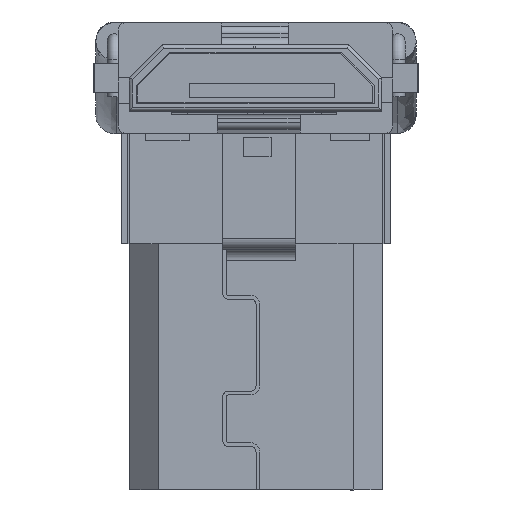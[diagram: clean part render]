
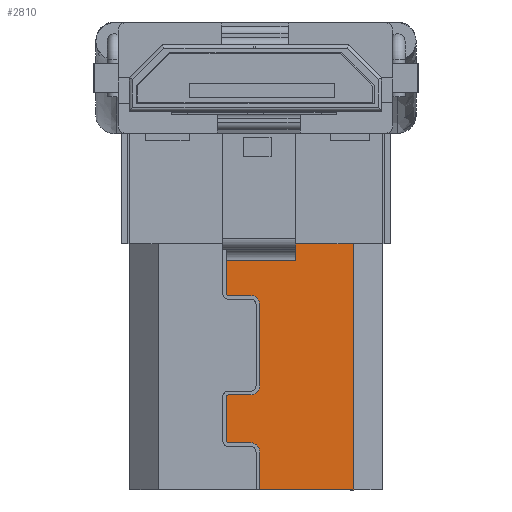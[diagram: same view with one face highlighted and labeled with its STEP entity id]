
A CAD part, front view. The second image highlights one B-rep face of the part: STEP entity #2810.
In plain terms, the highlighted planar face has unit normal (0, -1, 0) as drawn and (0, 0, 1) by its records, which use the part's own axes.
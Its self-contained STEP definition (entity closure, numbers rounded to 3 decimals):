
#2405 = VERTEX_POINT('',#2406);
#2406 = CARTESIAN_POINT('',(-2.65,0.,0.9));
#2430 = VERTEX_POINT('',#2431);
#2431 = CARTESIAN_POINT('',(-1.079,0.,0.9));
#2437 = EDGE_CURVE('',#2405,#2430,#2438,.T.);
#2438 = LINE('',#2439,#2440);
#2439 = CARTESIAN_POINT('',(-3.425,0.,0.9));
#2440 = VECTOR('',#2441,1.);
#2441 = DIRECTION('',(1.,0.,0.));
#2810 = ADVANCED_FACE('',(#2811),#2954,.F.);
#2811 = FACE_BOUND('',#2812,.T.);
#2812 = EDGE_LOOP('',(#2813,#2821,#2829,#2837,#2846,#2854,#2863,#2871,
    #2880,#2888,#2897,#2905,#2914,#2922,#2931,#2939,#2947,#2953));
#2813 = ORIENTED_EDGE('',*,*,#2814,.F.);
#2814 = EDGE_CURVE('',#2815,#2430,#2817,.T.);
#2815 = VERTEX_POINT('',#2816);
#2816 = CARTESIAN_POINT('',(-1.082,0.45,0.9));
#2817 = LINE('',#2818,#2819);
#2818 = CARTESIAN_POINT('',(-1.08,0.15,0.9));
#2819 = VECTOR('',#2820,1.);
#2820 = DIRECTION('',(0.006,-1.,0.));
#2821 = ORIENTED_EDGE('',*,*,#2822,.T.);
#2822 = EDGE_CURVE('',#2815,#2823,#2825,.T.);
#2823 = VERTEX_POINT('',#2824);
#2824 = CARTESIAN_POINT('',(0.8,0.45,0.9));
#2825 = LINE('',#2826,#2827);
#2826 = CARTESIAN_POINT('',(0.8,0.45,0.9));
#2827 = VECTOR('',#2828,1.);
#2828 = DIRECTION('',(1.,0.,0.));
#2829 = ORIENTED_EDGE('',*,*,#2830,.F.);
#2830 = EDGE_CURVE('',#2831,#2823,#2833,.T.);
#2831 = VERTEX_POINT('',#2832);
#2832 = CARTESIAN_POINT('',(0.8,1.35,0.9));
#2833 = LINE('',#2834,#2835);
#2834 = CARTESIAN_POINT('',(0.8,1.35,0.9));
#2835 = VECTOR('',#2836,1.);
#2836 = DIRECTION('',(0.,-1.,0.));
#2837 = ORIENTED_EDGE('',*,*,#2838,.F.);
#2838 = EDGE_CURVE('',#2839,#2831,#2841,.T.);
#2839 = VERTEX_POINT('',#2840);
#2840 = CARTESIAN_POINT('',(0.75,1.4,0.9));
#2841 = CIRCLE('',#2842,0.05);
#2842 = AXIS2_PLACEMENT_3D('',#2843,#2844,#2845);
#2843 = CARTESIAN_POINT('',(0.75,1.35,0.9));
#2844 = DIRECTION('',(0.,0.,-1.));
#2845 = DIRECTION('',(1.,0.,0.));
#2846 = ORIENTED_EDGE('',*,*,#2847,.F.);
#2847 = EDGE_CURVE('',#2848,#2839,#2850,.T.);
#2848 = VERTEX_POINT('',#2849);
#2849 = CARTESIAN_POINT('',(0.15,1.4,0.9));
#2850 = LINE('',#2851,#2852);
#2851 = CARTESIAN_POINT('',(0.15,1.4,0.9));
#2852 = VECTOR('',#2853,1.);
#2853 = DIRECTION('',(1.,0.,0.));
#2854 = ORIENTED_EDGE('',*,*,#2855,.F.);
#2855 = EDGE_CURVE('',#2856,#2848,#2858,.T.);
#2856 = VERTEX_POINT('',#2857);
#2857 = CARTESIAN_POINT('',(-0.1,1.65,0.9));
#2858 = CIRCLE('',#2859,0.25);
#2859 = AXIS2_PLACEMENT_3D('',#2860,#2861,#2862);
#2860 = CARTESIAN_POINT('',(0.15,1.65,0.9));
#2861 = DIRECTION('',(0.,0.,1.));
#2862 = DIRECTION('',(1.,0.,0.));
#2863 = ORIENTED_EDGE('',*,*,#2864,.F.);
#2864 = EDGE_CURVE('',#2865,#2856,#2867,.T.);
#2865 = VERTEX_POINT('',#2866);
#2866 = CARTESIAN_POINT('',(-0.1,3.849,0.9));
#2867 = LINE('',#2868,#2869);
#2868 = CARTESIAN_POINT('',(-0.1,3.849,0.9));
#2869 = VECTOR('',#2870,1.);
#2870 = DIRECTION('',(0.,-1.,0.));
#2871 = ORIENTED_EDGE('',*,*,#2872,.F.);
#2872 = EDGE_CURVE('',#2873,#2865,#2875,.T.);
#2873 = VERTEX_POINT('',#2874);
#2874 = CARTESIAN_POINT('',(0.15,4.099,0.9));
#2875 = CIRCLE('',#2876,0.25);
#2876 = AXIS2_PLACEMENT_3D('',#2877,#2878,#2879);
#2877 = CARTESIAN_POINT('',(0.15,3.849,0.9));
#2878 = DIRECTION('',(0.,0.,1.));
#2879 = DIRECTION('',(1.,0.,0.));
#2880 = ORIENTED_EDGE('',*,*,#2881,.F.);
#2881 = EDGE_CURVE('',#2882,#2873,#2884,.T.);
#2882 = VERTEX_POINT('',#2883);
#2883 = CARTESIAN_POINT('',(0.75,4.099,0.9));
#2884 = LINE('',#2885,#2886);
#2885 = CARTESIAN_POINT('',(0.75,4.099,0.9));
#2886 = VECTOR('',#2887,1.);
#2887 = DIRECTION('',(-1.,0.,0.));
#2888 = ORIENTED_EDGE('',*,*,#2889,.F.);
#2889 = EDGE_CURVE('',#2890,#2882,#2892,.T.);
#2890 = VERTEX_POINT('',#2891);
#2891 = CARTESIAN_POINT('',(0.8,4.149,0.9));
#2892 = CIRCLE('',#2893,0.05);
#2893 = AXIS2_PLACEMENT_3D('',#2894,#2895,#2896);
#2894 = CARTESIAN_POINT('',(0.75,4.149,0.9));
#2895 = DIRECTION('',(0.,0.,-1.));
#2896 = DIRECTION('',(1.,0.,0.));
#2897 = ORIENTED_EDGE('',*,*,#2898,.F.);
#2898 = EDGE_CURVE('',#2899,#2890,#2901,.T.);
#2899 = VERTEX_POINT('',#2900);
#2900 = CARTESIAN_POINT('',(0.8,5.349,0.9));
#2901 = LINE('',#2902,#2903);
#2902 = CARTESIAN_POINT('',(0.8,5.349,0.9));
#2903 = VECTOR('',#2904,1.);
#2904 = DIRECTION('',(0.,-1.,0.));
#2905 = ORIENTED_EDGE('',*,*,#2906,.F.);
#2906 = EDGE_CURVE('',#2907,#2899,#2909,.T.);
#2907 = VERTEX_POINT('',#2908);
#2908 = CARTESIAN_POINT('',(0.75,5.399,0.9));
#2909 = CIRCLE('',#2910,0.05);
#2910 = AXIS2_PLACEMENT_3D('',#2911,#2912,#2913);
#2911 = CARTESIAN_POINT('',(0.75,5.349,0.9));
#2912 = DIRECTION('',(0.,0.,-1.));
#2913 = DIRECTION('',(1.,0.,0.));
#2914 = ORIENTED_EDGE('',*,*,#2915,.F.);
#2915 = EDGE_CURVE('',#2916,#2907,#2918,.T.);
#2916 = VERTEX_POINT('',#2917);
#2917 = CARTESIAN_POINT('',(0.15,5.399,0.9));
#2918 = LINE('',#2919,#2920);
#2919 = CARTESIAN_POINT('',(0.15,5.399,0.9));
#2920 = VECTOR('',#2921,1.);
#2921 = DIRECTION('',(1.,0.,0.));
#2922 = ORIENTED_EDGE('',*,*,#2923,.F.);
#2923 = EDGE_CURVE('',#2924,#2916,#2926,.T.);
#2924 = VERTEX_POINT('',#2925);
#2925 = CARTESIAN_POINT('',(-0.1,5.649,0.9));
#2926 = CIRCLE('',#2927,0.25);
#2927 = AXIS2_PLACEMENT_3D('',#2928,#2929,#2930);
#2928 = CARTESIAN_POINT('',(0.15,5.649,0.9));
#2929 = DIRECTION('',(0.,0.,1.));
#2930 = DIRECTION('',(1.,0.,0.));
#2931 = ORIENTED_EDGE('',*,*,#2932,.F.);
#2932 = EDGE_CURVE('',#2933,#2924,#2935,.T.);
#2933 = VERTEX_POINT('',#2934);
#2934 = CARTESIAN_POINT('',(-0.1,6.68,0.9));
#2935 = LINE('',#2936,#2937);
#2936 = CARTESIAN_POINT('',(-0.1,6.68,0.9));
#2937 = VECTOR('',#2938,1.);
#2938 = DIRECTION('',(0.,-1.,0.));
#2939 = ORIENTED_EDGE('',*,*,#2940,.T.);
#2940 = EDGE_CURVE('',#2933,#2941,#2943,.T.);
#2941 = VERTEX_POINT('',#2942);
#2942 = CARTESIAN_POINT('',(-2.65,6.68,0.9));
#2943 = LINE('',#2944,#2945);
#2944 = CARTESIAN_POINT('',(2.284,6.68,0.9));
#2945 = VECTOR('',#2946,1.);
#2946 = DIRECTION('',(-1.,0.,0.));
#2947 = ORIENTED_EDGE('',*,*,#2948,.F.);
#2948 = EDGE_CURVE('',#2405,#2941,#2949,.T.);
#2949 = LINE('',#2950,#2951);
#2950 = CARTESIAN_POINT('',(-2.65,0.,0.9));
#2951 = VECTOR('',#2952,1.);
#2952 = DIRECTION('',(0.,1.,0.));
#2953 = ORIENTED_EDGE('',*,*,#2437,.T.);
#2954 = PLANE('',#2955);
#2955 = AXIS2_PLACEMENT_3D('',#2956,#2957,#2958);
#2956 = CARTESIAN_POINT('',(0.,0.,0.9));
#2957 = DIRECTION('',(0.,0.,-1.));
#2958 = DIRECTION('',(-1.,0.,0.));
